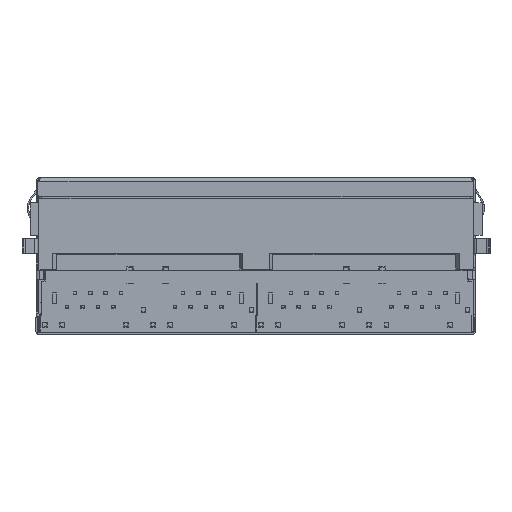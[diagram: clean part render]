
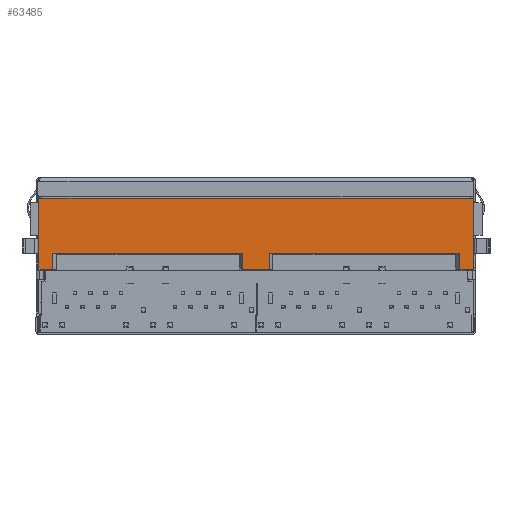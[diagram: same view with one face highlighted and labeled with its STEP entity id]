
A CAD part, front view. The second image highlights one B-rep face of the part: STEP entity #63485.
In plain terms, the highlighted planar face has unit normal (0, -1, 0).
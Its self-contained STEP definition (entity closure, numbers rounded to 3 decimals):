
#5046=DIRECTION('',(0.,0.,-1.));
#5047=VECTOR('',#5046,9.45);
#5048=CARTESIAN_POINT('',(-27.573,-6.361,
16.769));
#5049=LINE('',#5048,#5047);
#5094=DIRECTION('',(-1.,0.,0.));
#5095=VECTOR('',#5094,1.791);
#5096=CARTESIAN_POINT('',(29.927,-6.375,7.319));
#5097=LINE('',#5096,#5095);
#5098=DIRECTION('',(-1.,0.,0.));
#5099=VECTOR('',#5098,25.191);
#5100=CARTESIAN_POINT('',(28.136,-6.375,9.469));
#5101=LINE('',#5100,#5099);
#5102=DIRECTION('',(0.,0.,-1.));
#5103=VECTOR('',#5102,2.15);
#5104=CARTESIAN_POINT('',(2.945,-6.368,9.469));
#5105=LINE('',#5104,#5103);
#5106=DIRECTION('',(-1.,0.,0.));
#5107=VECTOR('',#5106,3.536);
#5108=CARTESIAN_POINT('',(2.945,-6.368,7.319));
#5109=LINE('',#5108,#5107);
#5110=DIRECTION('',(-1.,0.,0.));
#5111=VECTOR('',#5110,25.191);
#5112=CARTESIAN_POINT('',(-0.592,-6.368,
9.469));
#5113=LINE('',#5112,#5111);
#5114=DIRECTION('',(0.,0.,-1.));
#5115=VECTOR('',#5114,2.15);
#5116=CARTESIAN_POINT('',(-25.783,-6.361,
9.469));
#5117=LINE('',#5116,#5115);
#5118=DIRECTION('',(-1.,0.,0.));
#5119=VECTOR('',#5118,1.791);
#5120=CARTESIAN_POINT('',(-25.783,-6.361,
7.319));
#5121=LINE('',#5120,#5119);
#5146=DIRECTION('',(0.,0.,1.));
#5147=VECTOR('',#5146,9.45);
#5148=CARTESIAN_POINT('',(29.927,-6.375,7.319));
#5149=LINE('',#5148,#5147);
#21280=DIRECTION('',(0.,0.,-1.));
#21281=VECTOR('',#21280,2.15);
#21282=CARTESIAN_POINT('',(-0.592,-6.368,
9.469));
#21283=LINE('',#21282,#21281);
#26492=DIRECTION('',(-1.,0.,0.));
#26493=VECTOR('',#26492,57.5);
#26494=CARTESIAN_POINT('',(29.927,-6.375,
16.769));
#26495=LINE('',#26494,#26493);
#32565=DIRECTION('',(0.,0.,-1.));
#32566=VECTOR('',#32565,2.15);
#32567=CARTESIAN_POINT('',(28.136,-6.375,
9.469));
#32568=LINE('',#32567,#32566);
#42899=CARTESIAN_POINT('',(29.927,-6.375,
7.319));
#42900=VERTEX_POINT('',#42899);
#42901=CARTESIAN_POINT('',(29.927,-6.375,
16.769));
#42902=VERTEX_POINT('',#42901);
#43543=CARTESIAN_POINT('',(-27.573,-6.361,
7.319));
#43544=VERTEX_POINT('',#43543);
#43545=CARTESIAN_POINT('',(-25.783,-6.361,
7.319));
#43546=VERTEX_POINT('',#43545);
#43640=CARTESIAN_POINT('',(-25.783,-6.361,
9.469));
#43642=VERTEX_POINT('',#43640);
#43643=CARTESIAN_POINT('',(-0.592,-6.368,
9.469));
#43644=VERTEX_POINT('',#43643);
#43647=CARTESIAN_POINT('',(28.136,-6.375,
7.319));
#43648=VERTEX_POINT('',#43647);
#43649=CARTESIAN_POINT('',(28.136,-6.375,
9.469));
#43650=VERTEX_POINT('',#43649);
#43651=CARTESIAN_POINT('',(2.945,-6.368,
9.469));
#43652=VERTEX_POINT('',#43651);
#43653=CARTESIAN_POINT('',(2.945,-6.368,
7.319));
#43654=VERTEX_POINT('',#43653);
#43655=CARTESIAN_POINT('',(-0.592,-6.368,
7.319));
#43656=VERTEX_POINT('',#43655);
#43657=CARTESIAN_POINT('',(-27.573,-6.361,
16.769));
#43658=VERTEX_POINT('',#43657);
#63455=CARTESIAN_POINT('',(-27.598,-6.361,
-0.781));
#63456=DIRECTION('',(0.,-1.,0.));
#63457=DIRECTION('',(-1.,0.,0.));
#63458=AXIS2_PLACEMENT_3D('',#63455,#63456,#63457);
#63459=PLANE('',#63458);
#63461=ORIENTED_EDGE('',*,*,#63460,.T.);
#63463=ORIENTED_EDGE('',*,*,#63462,.F.);
#63465=ORIENTED_EDGE('',*,*,#63464,.T.);
#63467=ORIENTED_EDGE('',*,*,#63466,.T.);
#63469=ORIENTED_EDGE('',*,*,#63468,.T.);
#63471=ORIENTED_EDGE('',*,*,#63470,.F.);
#63473=ORIENTED_EDGE('',*,*,#63472,.T.);
#63475=ORIENTED_EDGE('',*,*,#63474,.T.);
#63477=ORIENTED_EDGE('',*,*,#63476,.T.);
#63478=ORIENTED_EDGE('',*,*,#63408,.F.);
#63480=ORIENTED_EDGE('',*,*,#63479,.F.);
#63482=ORIENTED_EDGE('',*,*,#63481,.F.);
#63483=EDGE_LOOP('',(#63461,#63463,#63465,#63467,#63469,#63471,#63473,#63475,
#63477,#63478,#63480,#63482));
#63484=FACE_OUTER_BOUND('',#63483,.F.);
#63485=ADVANCED_FACE('',(#63484),#63459,.T.);
#63408=EDGE_CURVE('',#43658,#43544,#5049,.T.);
#63460=EDGE_CURVE('',#42900,#43648,#5097,.T.);
#63462=EDGE_CURVE('',#43650,#43648,#32568,.T.);
#63464=EDGE_CURVE('',#43650,#43652,#5101,.T.);
#63466=EDGE_CURVE('',#43652,#43654,#5105,.T.);
#63468=EDGE_CURVE('',#43654,#43656,#5109,.T.);
#63470=EDGE_CURVE('',#43644,#43656,#21283,.T.);
#63472=EDGE_CURVE('',#43644,#43642,#5113,.T.);
#63474=EDGE_CURVE('',#43642,#43546,#5117,.T.);
#63476=EDGE_CURVE('',#43546,#43544,#5121,.T.);
#63479=EDGE_CURVE('',#42902,#43658,#26495,.T.);
#63481=EDGE_CURVE('',#42900,#42902,#5149,.T.);
